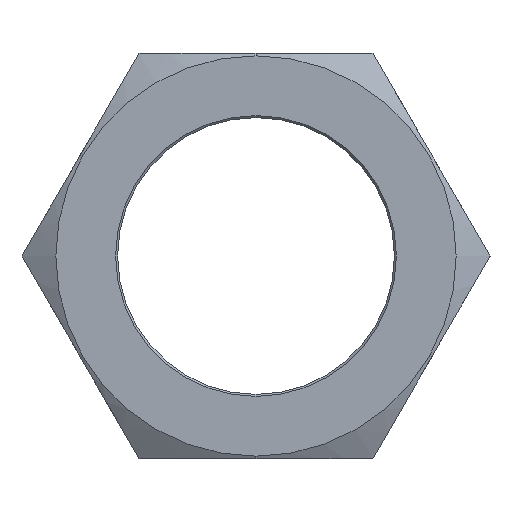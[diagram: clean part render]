
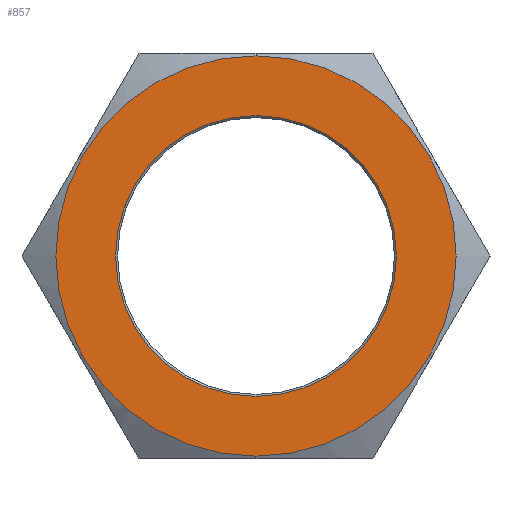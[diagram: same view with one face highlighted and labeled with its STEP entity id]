
A CAD part, left-side view. The second image highlights one B-rep face of the part: STEP entity #857.
In plain terms, the highlighted planar face has unit normal (-1, 0, 0) as drawn and (0, 0, 1) by its records, which use the part's own axes.
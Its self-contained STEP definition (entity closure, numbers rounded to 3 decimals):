
#141=CARTESIAN_POINT('',(20.25,0.0,10.75));
#142=VERTEX_POINT('',#141);
#151=CARTESIAN_POINT('',(-20.25,0.,10.75));
#152=VERTEX_POINT('',#151);
#153=CARTESIAN_POINT('',(0.,0.0,10.75));
#154=DIRECTION('',(0.0,0.0,1.0));
#155=DIRECTION('',(1.0,0.0,0.0));
#156=AXIS2_PLACEMENT_3D('',#153,#154,#155);
#157=CIRCLE('',#156,20.25);
#158=EDGE_CURVE('',#152,#142,#157,.T.);
#471=CARTESIAN_POINT('',(0.,14.2,10.75));
#472=VERTEX_POINT('',#471);
#480=CARTESIAN_POINT('',(0.,-14.2,10.75));
#481=VERTEX_POINT('',#480);
#488=CARTESIAN_POINT('',(0.,0.,10.75));
#489=DIRECTION('',(0.0,0.0,-1.0));
#490=DIRECTION('',(0.0,1.0,0.0));
#491=AXIS2_PLACEMENT_3D('',#488,#489,#490);
#492=CIRCLE('',#491,14.2);
#493=EDGE_CURVE('',#472,#481,#492,.T.);
#504=CARTESIAN_POINT('',(0.,0.,10.75));
#505=DIRECTION('',(0.0,0.0,-1.0));
#506=DIRECTION('',(0.0,1.0,0.0));
#507=AXIS2_PLACEMENT_3D('',#504,#505,#506);
#508=CIRCLE('',#507,14.2);
#509=EDGE_CURVE('',#481,#472,#508,.T.);
#728=CARTESIAN_POINT('',(0.,0.0,10.75));
#729=DIRECTION('',(0.0,0.0,1.0));
#730=DIRECTION('',(1.0,0.0,0.0));
#731=AXIS2_PLACEMENT_3D('',#728,#729,#730);
#732=CIRCLE('',#731,20.25);
#733=EDGE_CURVE('',#142,#152,#732,.T.);
#844=CARTESIAN_POINT('',(0.,0.,10.75));
#845=DIRECTION('',(0.0,0.0,1.0));
#846=DIRECTION('',(1.0,0.0,0.0));
#847=AXIS2_PLACEMENT_3D('',#844,#845,#846);
#848=PLANE('',#847);
#849=ORIENTED_EDGE('',*,*,#733,.T.);
#850=ORIENTED_EDGE('',*,*,#158,.T.);
#851=EDGE_LOOP('',(#849,#850));
#852=FACE_OUTER_BOUND('',#851,.T.);
#853=ORIENTED_EDGE('',*,*,#493,.T.);
#854=ORIENTED_EDGE('',*,*,#509,.T.);
#855=EDGE_LOOP('',(#853,#854));
#856=FACE_BOUND('',#855,.T.);
#857=ADVANCED_FACE('',(#852,#856),#848,.T.);
